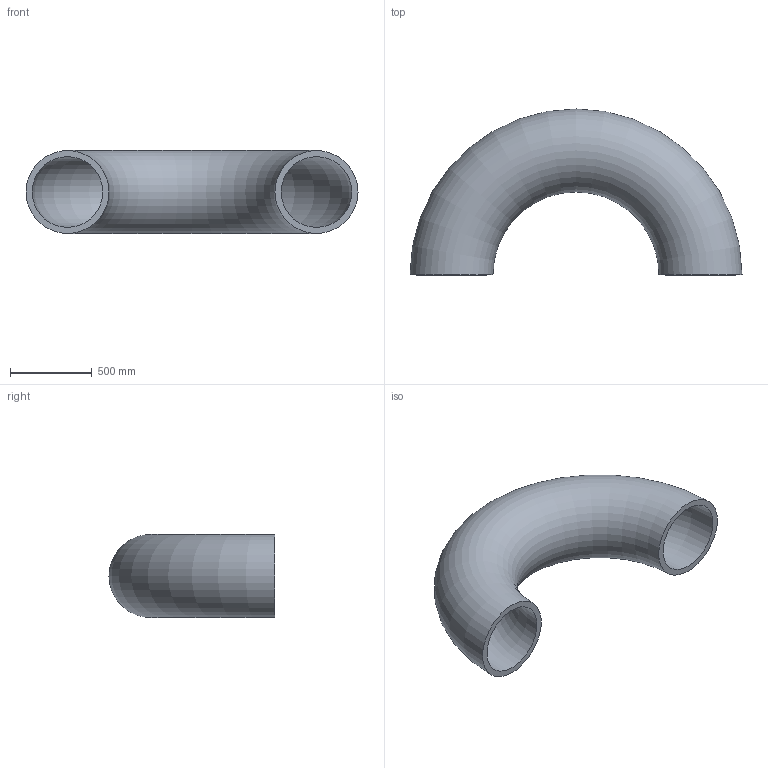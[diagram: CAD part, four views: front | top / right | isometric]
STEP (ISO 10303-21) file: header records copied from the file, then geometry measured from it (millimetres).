
FILE_DESCRIPTION(/* description */ (''),/* implementation_level */ '2;1');
FILE_NAME(/* name */ 'C:\Users\D\Documents\Inventor\HP\JIS\配管\エルボ ロング 180°\Sch120\Elbow180-long-500A-Sch120.stp',/* time_stamp */ '2022-06-14T14:56:33+09:00',/* author */ ('D'),/* organization */ (''),/* preprocessor_version */ 'ST-DEVELOPER v18',/* originating_system */ 'Autodesk Inventor 2020',/* authorisation */ '');
FILE_SCHEMA (('AUTOMOTIVE_DESIGN { 1 0 10303 214 3 1 1 }'));
Length unit declared in the file: millimetre
Products named in the file (1): Elbow-long-90-15A-SGP
Bounding box: 2032 x 1016 x 508 mm (x, y, z)
Volume: 134643420.9 mm3; surface area: 7180385.2 mm2
Topology: 1 solids, 1 shells, 4 faces, 10 edges, 8 vertices
Faces by surface type: torus 2, plane 2
Entity records: 181 total; most frequent: DIRECTION 30, CARTESIAN_POINT 23, ORIENTED_EDGE 20, AXIS2_PLACEMENT_3D 15, CIRCLE 10, EDGE_CURVE 10, VERTEX_POINT 8, EDGE_LOOP 6
